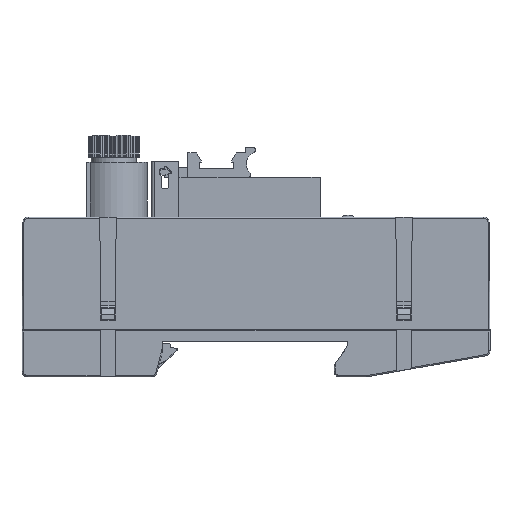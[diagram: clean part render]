
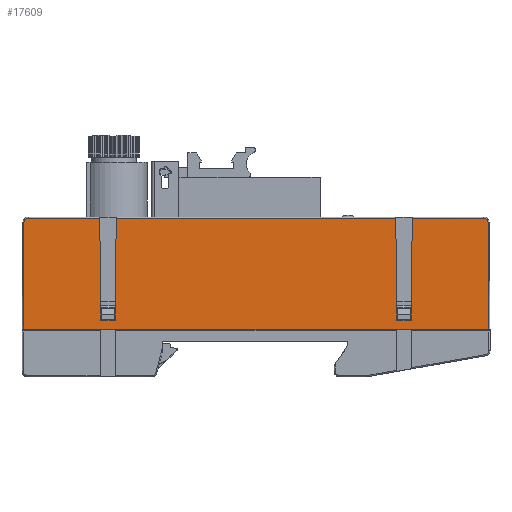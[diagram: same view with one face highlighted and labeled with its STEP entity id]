
A CAD part, top view. The second image highlights one B-rep face of the part: STEP entity #17609.
In plain terms, the highlighted planar face has unit normal (0, 0, 1).
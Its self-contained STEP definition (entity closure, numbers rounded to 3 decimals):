
#235=CIRCLE('',#18531,0.8);
#236=CIRCLE('',#18532,0.8);
#591=FACE_OUTER_BOUND('',#1483,.T.);
#1483=EDGE_LOOP('',(#11012,#11013,#11014,#11015,#11016,#11017,#11018,#11019,
#11020,#11021,#11022,#11023,#11024,#11025));
#2428=LINE('',#24456,#4600);
#2468=LINE('',#24552,#4640);
#2469=LINE('',#24556,#4641);
#2470=LINE('',#24558,#4642);
#2471=LINE('',#24560,#4643);
#2472=LINE('',#24562,#4644);
#2473=LINE('',#24564,#4645);
#2474=LINE('',#24566,#4646);
#2475=LINE('',#24568,#4647);
#2476=LINE('',#24570,#4648);
#2477=LINE('',#24572,#4649);
#2478=LINE('',#24575,#4650);
#4600=VECTOR('',#19781,89.4);
#4640=VECTOR('',#19839,20.658);
#4641=VECTOR('',#19842,13.749);
#4642=VECTOR('',#19843,19.551);
#4643=VECTOR('',#19844,2.8);
#4644=VECTOR('',#19845,19.551);
#4645=VECTOR('',#19846,53.659);
#4646=VECTOR('',#19847,19.551);
#4647=VECTOR('',#19848,2.8);
#4648=VECTOR('',#19849,19.551);
#4649=VECTOR('',#19850,13.749);
#4650=VECTOR('',#19853,20.658);
#6772=VERTEX_POINT('',#24454);
#6773=VERTEX_POINT('',#24455);
#6820=VERTEX_POINT('',#24551);
#6821=VERTEX_POINT('',#24553);
#6822=VERTEX_POINT('',#24555);
#6823=VERTEX_POINT('',#24557);
#6824=VERTEX_POINT('',#24559);
#6825=VERTEX_POINT('',#24561);
#6826=VERTEX_POINT('',#24563);
#6827=VERTEX_POINT('',#24565);
#6828=VERTEX_POINT('',#24567);
#6829=VERTEX_POINT('',#24569);
#6830=VERTEX_POINT('',#24571);
#6831=VERTEX_POINT('',#24573);
#8433=EDGE_CURVE('',#6772,#6773,#2428,.T.);
#8481=EDGE_CURVE('',#6773,#6820,#2468,.T.);
#8482=EDGE_CURVE('',#6820,#6821,#235,.T.);
#8483=EDGE_CURVE('',#6822,#6821,#2469,.T.);
#8484=EDGE_CURVE('',#6823,#6822,#2470,.T.);
#8485=EDGE_CURVE('',#6824,#6823,#2471,.T.);
#8486=EDGE_CURVE('',#6825,#6824,#2472,.T.);
#8487=EDGE_CURVE('',#6826,#6825,#2473,.T.);
#8488=EDGE_CURVE('',#6827,#6826,#2474,.T.);
#8489=EDGE_CURVE('',#6828,#6827,#2475,.T.);
#8490=EDGE_CURVE('',#6829,#6828,#2476,.T.);
#8491=EDGE_CURVE('',#6830,#6829,#2477,.T.);
#8492=EDGE_CURVE('',#6830,#6831,#236,.T.);
#8493=EDGE_CURVE('',#6831,#6772,#2478,.T.);
#11012=ORIENTED_EDGE('',*,*,#8433,.T.);
#11013=ORIENTED_EDGE('',*,*,#8481,.T.);
#11014=ORIENTED_EDGE('',*,*,#8482,.T.);
#11015=ORIENTED_EDGE('',*,*,#8483,.F.);
#11016=ORIENTED_EDGE('',*,*,#8484,.F.);
#11017=ORIENTED_EDGE('',*,*,#8485,.F.);
#11018=ORIENTED_EDGE('',*,*,#8486,.F.);
#11019=ORIENTED_EDGE('',*,*,#8487,.F.);
#11020=ORIENTED_EDGE('',*,*,#8488,.F.);
#11021=ORIENTED_EDGE('',*,*,#8489,.F.);
#11022=ORIENTED_EDGE('',*,*,#8490,.F.);
#11023=ORIENTED_EDGE('',*,*,#8491,.F.);
#11024=ORIENTED_EDGE('',*,*,#8492,.T.);
#11025=ORIENTED_EDGE('',*,*,#8493,.T.);
#16020=PLANE('',#18530);
#17609=ADVANCED_FACE('',(#591),#16020,.F.);
#18530=AXIS2_PLACEMENT_3D('',#24550,#19837,#19838);
#18531=AXIS2_PLACEMENT_3D('',#24554,#19840,#19841);
#18532=AXIS2_PLACEMENT_3D('',#24574,#19851,#19852);
#19781=DIRECTION('',(1.,0.,0.));
#19837=DIRECTION('center_axis',(0.,0.,
-1.));
#19838=DIRECTION('ref_axis',(-1.,0.,0.));
#19839=DIRECTION('',(-0.009,1.,0.));
#19840=DIRECTION('center_axis',(0.,0.,
1.));
#19841=DIRECTION('ref_axis',(0.704,0.71,0.));
#19842=DIRECTION('',(1.,0.,0.));
#19843=DIRECTION('',(0.009,1.,0.));
#19844=DIRECTION('',(1.,0.,0.));
#19845=DIRECTION('',(0.009,-1.,0.));
#19846=DIRECTION('',(1.,0.,0.));
#19847=DIRECTION('',(0.009,1.,0.));
#19848=DIRECTION('',(1.,0.,0.));
#19849=DIRECTION('',(0.009,-1.,0.));
#19850=DIRECTION('',(1.,0.,0.));
#19851=DIRECTION('center_axis',(0.,0.,
1.));
#19852=DIRECTION('ref_axis',(-0.704,0.71,0.));
#19853=DIRECTION('',(-0.009,-1.,0.));
#24454=CARTESIAN_POINT('',(-44.7,0.,17.8));
#24455=CARTESIAN_POINT('',(44.7,0.,17.8));
#24456=CARTESIAN_POINT('',(-44.9,0.,17.8));
#24550=CARTESIAN_POINT('Origin',(-19.263,27.738,17.8));
#24551=CARTESIAN_POINT('',(44.52,20.657,17.8));
#24552=CARTESIAN_POINT('',(44.482,24.971,17.8));
#24553=CARTESIAN_POINT('',(43.72,21.45,17.8));
#24554=CARTESIAN_POINT('Origin',(43.72,20.65,17.8));
#24555=CARTESIAN_POINT('',(29.971,21.45,17.8));
#24556=CARTESIAN_POINT('',(0.,21.45,17.8));
#24557=CARTESIAN_POINT('',(29.8,1.9,17.8));
#24558=CARTESIAN_POINT('',(29.911,14.604,17.8));
#24559=CARTESIAN_POINT('',(27.,1.9,17.8));
#24560=CARTESIAN_POINT('',(3.868,1.9,17.8));
#24561=CARTESIAN_POINT('',(26.829,21.45,17.8));
#24562=CARTESIAN_POINT('',(26.886,15.02,17.8));
#24563=CARTESIAN_POINT('',(-26.829,21.45,17.8));
#24564=CARTESIAN_POINT('',(0.,21.45,17.8));
#24565=CARTESIAN_POINT('',(-27.,1.9,17.8));
#24566=CARTESIAN_POINT('',(-26.887,14.852,17.8));
#24567=CARTESIAN_POINT('',(-29.8,1.9,17.8));
#24568=CARTESIAN_POINT('',(-23.132,1.9,17.8));
#24569=CARTESIAN_POINT('',(-29.971,21.45,17.8));
#24570=CARTESIAN_POINT('',(-29.912,14.772,17.8));
#24571=CARTESIAN_POINT('',(-43.72,21.45,17.8));
#24572=CARTESIAN_POINT('',(0.,21.45,17.8));
#24573=CARTESIAN_POINT('',(-44.52,20.657,17.8));
#24574=CARTESIAN_POINT('Origin',(-43.72,20.65,17.8));
#24575=CARTESIAN_POINT('',(-44.484,24.803,17.8));
